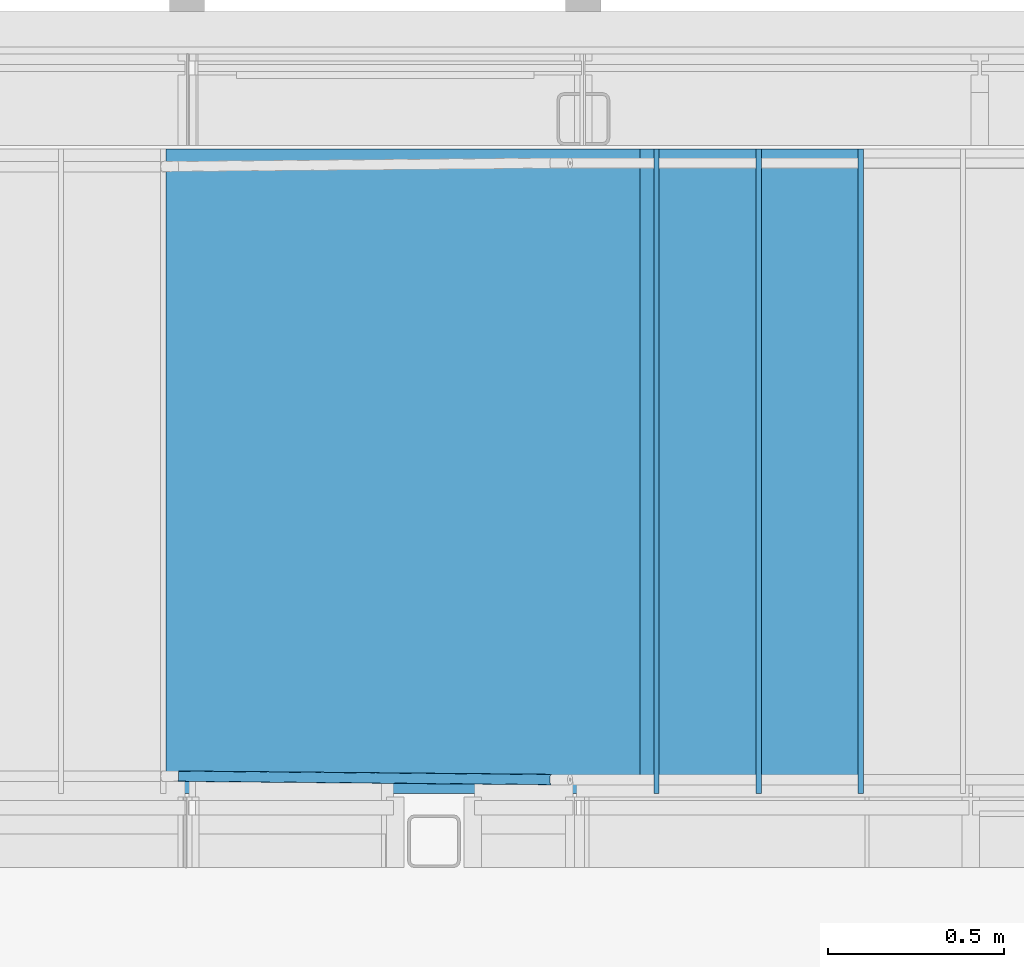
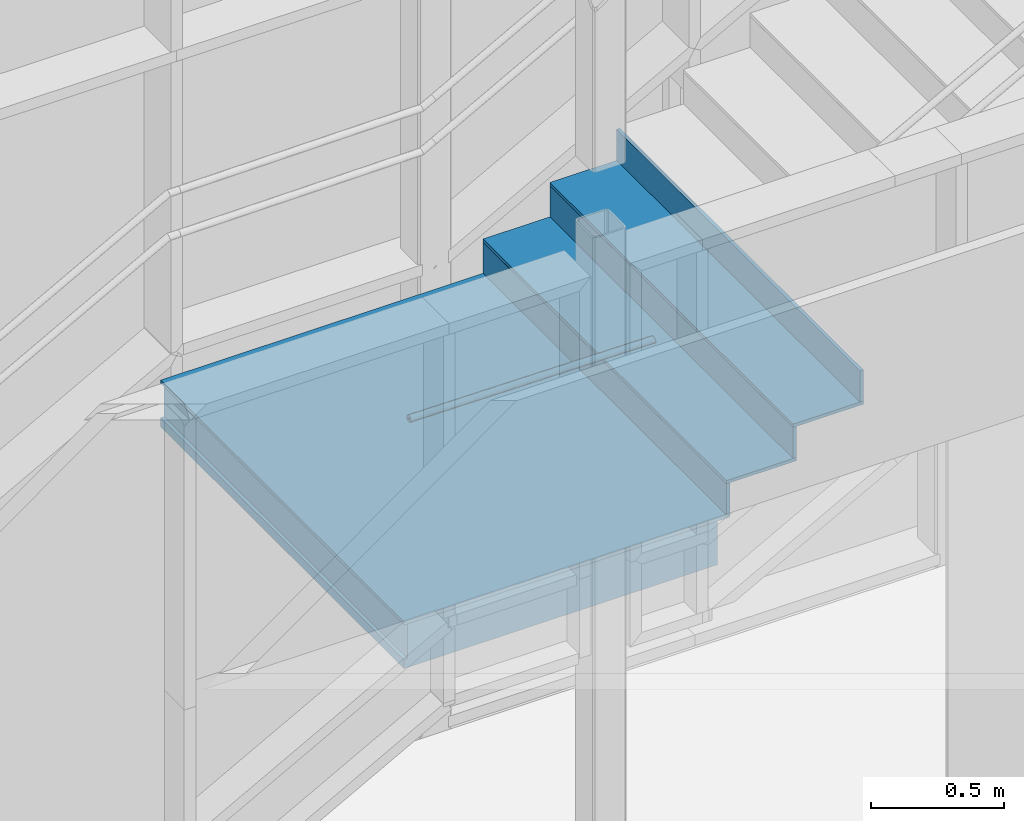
# One storey, part 192 of 301: 8 building element parts, 2 elements without a shape of their own.
"""IFC2X3 building model written with IfcOpenShell, lengths in millimetres."""

import ifcopenshell
import ifcopenshell.guid

model = None  # the IFC model being written
_history = None  # IfcOwnerHistory: only IFC2X3 demands one
_inside = {}  # id of a spatial element -> (the spatial element, [elements in it])
_under = {}  # id of a project, library or spatial element -> (it, [spatial elements below it])
_declared = {}  # id of a project -> (the project, [libraries it declares])
_typed = {}  # id of a type object -> (the type object, [elements of that type])
_made_of = {}  # id of a material, layer set ... -> (it, [elements and type objects made of it])


def new_model(schema):
    """Start an empty IFC model of exactly this schema.

    Asked for "IFC4X3", IfcOpenShell would pick the latest addendum, in which some entities
    have other attributes; the version numbers below select the first issue.
    IFC2X3 requires an IfcOwnerHistory on every rooted entity: one is made here for all.
    """
    global model, _history
    if schema == "IFC4X3":
        model = ifcopenshell.file(schema_version=(4, 3, 0, 0))
    else:
        model = ifcopenshell.file(schema=schema)
    _inside.clear()
    _under.clear()
    _declared.clear()
    _typed.clear()
    _made_of.clear()
    _history = None
    if model.schema == "IFC2X3":
        org = make("IfcOrganization", Name="unknown")
        user = make(
            "IfcPersonAndOrganization",
            ThePerson=make("IfcPerson", FamilyName="unknown"),
            TheOrganization=org,
        )
        app = make(
            "IfcApplication",
            ApplicationDeveloper=org,
            Version="unknown",
            ApplicationFullName="unknown",
            ApplicationIdentifier="unknown",
        )
        _history = make(
            "IfcOwnerHistory",
            OwningUser=user,
            OwningApplication=app,
            ChangeAction="ADDED",
            CreationDate=0,
        )
    return model


def make(cls, **values):
    """One entity of the class cls with the attributes given. An attribute that is None is left unset."""
    return model.create_entity(
        cls, **{name: value for name, value in values.items() if value is not None}
    )


def entity(cls, *values):
    """Any entity or typed value of the class cls, its attributes in the order of the schema. None: left unset."""
    e = model.create_entity(cls)
    for i, value in enumerate(values):
        if value is not None:
            e[i] = value
    return e


def rooted(cls, **values):
    """An entity with a GlobalId (a new one), such as an element, a storey or a relation."""
    return make(cls, GlobalId=ifcopenshell.guid.new(), OwnerHistory=_history, **values)


def si_unit(unit_type, name, prefix=None):
    """IfcSIUnit, for example si_unit("LENGTHUNIT", "METRE", prefix="MILLI")."""
    return make("IfcSIUnit", UnitType=unit_type, Prefix=prefix, Name=name)


def converted_unit(unit_type, name, factor, base, dimensions=None, offset=None):
    """IfcConversionBasedUnit, such as the inch: factor (a typed value) times the base unit."""
    return make(
        "IfcConversionBasedUnit"
        if offset is None
        else "IfcConversionBasedUnitWithOffset",
        ConversionOffset=offset,
        Dimensions=None
        if dimensions is None
        else entity("IfcDimensionalExponents", *dimensions),
        UnitType=unit_type,
        Name=name,
        ConversionFactor=make(
            "IfcMeasureWithUnit", ValueComponent=factor, UnitComponent=base
        ),
    )


def derived_unit(unit_type, elements):
    """IfcDerivedUnit: a product of units, each with its exponent."""
    return make(
        "IfcDerivedUnit",
        Elements=[
            make("IfcDerivedUnitElement", Unit=unit, Exponent=power)
            for unit, power in elements
        ],
        UnitType=unit_type,
    )


def money_unit(currency):
    """IfcMonetaryUnit."""
    return make("IfcMonetaryUnit", Currency=currency)


def assignment(units):
    """IfcUnitAssignment: the units of a project."""
    return None if units is None else make("IfcUnitAssignment", Units=units)


def point(xyz):
    """IfcCartesianPoint."""
    return None if xyz is None else make("IfcCartesianPoint", Coordinates=xyz)


def direction(xyz):
    """IfcDirection."""
    return None if xyz is None else make("IfcDirection", DirectionRatios=xyz)


def frame(location, z_axis=None, x_axis=None):
    """IfcAxis2Placement3D, a coordinate frame: its origin and axes. An axis left out is left unset."""
    return make(
        "IfcAxis2Placement3D",
        Location=point(location),
        Axis=direction(z_axis),
        RefDirection=direction(x_axis),
    )


def origin_with_axes():
    """The frame at (0, 0, 0) with the z axis (0, 0, 1) and the x axis (1, 0, 0) written out."""
    return frame((0.0, 0.0, 0.0), z_axis=(0.0, 0.0, 1.0), x_axis=(1.0, 0.0, 0.0))


def place(relative_to, where):
    """IfcLocalPlacement: puts the frame where relative to a parent placement (None: the world)."""
    return make(
        "IfcLocalPlacement", PlacementRelTo=relative_to, RelativePlacement=where
    )


def context(
    kind, dimensions, precision=None, world=None, true_north=None, identifier=None
):
    """IfcGeometricRepresentationContext, for example the 3D "Model" context."""
    return make(
        "IfcGeometricRepresentationContext",
        ContextIdentifier=identifier,
        ContextType=kind,
        CoordinateSpaceDimension=dimensions,
        Precision=precision,
        WorldCoordinateSystem=world,
        TrueNorth=true_north,
    )


def subcontext(parent, identifier, kind, view, scale=None):
    """IfcGeometricRepresentationSubContext, for example "Body" below "Model"."""
    return make(
        "IfcGeometricRepresentationSubContext",
        ContextIdentifier=identifier,
        ContextType=kind,
        ParentContext=parent,
        TargetScale=scale,
        TargetView=view,
    )


def project(units=None, contexts=None):
    """IfcProject with its units and contexts."""
    return rooted(
        "IfcProject",
        Name="project",
        RepresentationContexts=contexts,
        UnitsInContext=assignment(units),
    )


def spatial(cls, under=None, at=None, **own):
    """A site, building, storey or space (cls), placed at a placement, below another one or the project."""
    s = rooted(cls, ObjectPlacement=at, **own)
    if under is not None:
        _under.setdefault(under.id(), (under, []))[1].append(s)
    return s


def faces_of(points, faces, orient=None, outer=None):
    """IfcFace entities. A face is a list of loops; a loop is a list of indices into points, from 0.

    orient and outer hold one flag for each loop. By default every Orientation is true, the
    first loop of a face is its IfcFaceOuterBound and the others are IfcFaceBound.
    """
    made = []
    for i, loops in enumerate(faces):
        bounds = []
        for j, loop in enumerate(loops):
            is_outer = j == 0 if outer is None else outer[i][j]
            bounds.append(
                make(
                    "IfcFaceOuterBound" if is_outer else "IfcFaceBound",
                    Bound=make("IfcPolyLoop", Polygon=[points[k] for k in loop]),
                    Orientation=True if orient is None else orient[i][j],
                )
            )
        made.append(make("IfcFace", Bounds=bounds))
    return made


def faceted_brep(points, faces, orient=None, outer=None, voids=None):
    """IfcFacetedBrep: a solid bounded by flat faces; with voids (closed shells), ...WithVoids."""
    shared = [point(p) for p in points]
    hull = make("IfcClosedShell", CfsFaces=faces_of(shared, faces, orient, outer))
    if voids is None:
        return make("IfcFacetedBrep", Outer=hull)
    return make(
        "IfcFacetedBrepWithVoids",
        Outer=hull,
        Voids=[
            make(cls, CfsFaces=faces_of(shared, fs, o, b)) for cls, fs, o, b in voids
        ],
    )


def shape(context_of_items, identifier, shape_type, items):
    """IfcShapeRepresentation: the items that make up one representation, for example the "Body"."""
    return make(
        "IfcShapeRepresentation",
        ContextOfItems=context_of_items,
        RepresentationIdentifier=identifier,
        RepresentationType=shape_type,
        Items=items,
    )


def material(Name=None, Category=None):
    """IfcMaterial."""
    return make("IfcMaterial", Name=Name, Category=Category)


def made_of(thing, what):
    """Note that an element or type object is made of a material, layer set ...; save() writes the relation."""
    if what is not None:
        _made_of.setdefault(what.id(), (what, []))[1].append(thing)
    return thing


def type_object(cls, material=None, **own):
    """A type object (cls), such as IfcWallType, which elements share."""
    return made_of(rooted(cls, **own), material)


def element(
    cls,
    number,
    at=None,
    inside=None,
    cuts=None,
    type_object=None,
    material=None,
    context=None,
    identifier="Body",
    shape_type=None,
    held_by="IfcProductDefinitionShape",
    body=None,
    shapes=None,
    **own,
):
    """One element of the class cls, such as IfcWall. Its Tag is "e" and its number.

    at: its placement. inside: the storey or other place that contains it. cuts: it is an
    opening in that element (IfcRelVoidsElement). A single representation is given by context,
    identifier, shape_type and body (its items); several are given by shapes. held_by: the class
    of the entity that holds the representations. save() writes the other relations.
    """
    e = rooted(cls, Tag="e%d" % number, ObjectPlacement=at, **own)
    if body is not None:
        shapes = [shape(context, identifier, shape_type, body)]
    if shapes is not None:
        e.Representation = make(held_by, Representations=shapes)
    if inside is not None:
        _inside.setdefault(inside.id(), (inside, []))[1].append(e)
    if cuts is not None:
        rooted(
            "IfcRelVoidsElement", RelatingBuildingElement=cuts, RelatedOpeningElement=e
        )
    if type_object is not None:
        _typed.setdefault(type_object.id(), (type_object, []))[1].append(e)
    return made_of(e, material)


def aggregate(whole, parts):
    """IfcRelAggregates: a whole, such as a stair, and the parts it consists of."""
    return rooted("IfcRelAggregates", RelatingObject=whole, RelatedObjects=parts)


def save(model, path):
    """Write the relations noted so far, then the file.

    IfcRelAggregates (storeys below a building ...), IfcRelContainedInSpatialStructure (elements
    in a storey), IfcRelDefinesByType, IfcRelAssociatesMaterial and IfcRelDeclares: one each for
    every whole, place, type object, material and project.
    """
    for whole, parts in _under.values():
        aggregate(whole, parts)
    for where, things in _inside.values():
        rooted(
            "IfcRelContainedInSpatialStructure",
            RelatedElements=things,
            RelatingStructure=where,
        )
    for kind, things in _typed.values():
        rooted("IfcRelDefinesByType", RelatedObjects=things, RelatingType=kind)
    for what, things in _made_of.values():
        rooted("IfcRelAssociatesMaterial", RelatedObjects=things, RelatingMaterial=what)
    for by, libraries in _declared.values():
        rooted("IfcRelDeclares", RelatingContext=by, RelatedDefinitions=libraries)
    model.write(path)


model = new_model("IFC2X3")

# Units and contexts
model_context = context("Model", 3, precision=0.01, world=origin_with_axes(), true_north=direction((0.0, 1.0)))
body_context = subcontext(model_context, "Body", "Model", "MODEL_VIEW")
ifc_project = project(units=[si_unit("LENGTHUNIT", "METRE", prefix="MILLI"), si_unit("AREAUNIT", "SQUARE_METRE"), si_unit("VOLUMEUNIT", "CUBIC_METRE"), converted_unit("PLANEANGLEUNIT", "DEGREE", entity("IfcPlaneAngleMeasure", 0.0174532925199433), si_unit("PLANEANGLEUNIT", "RADIAN"), dimensions=[0, 0, 0, 0, 0, 0, 0]), money_unit("EUR"), converted_unit("TIMEUNIT", "Year", entity("IfcTimeMeasure", 31557600.0), si_unit("TIMEUNIT", "SECOND"), dimensions=[0, 0, 1, 0, 0, 0, 0]), si_unit("MASSUNIT", "GRAM", prefix="KILO"), si_unit("THERMODYNAMICTEMPERATUREUNIT", "DEGREE_CELSIUS"), si_unit("LUMINOUSINTENSITYUNIT", "LUMEN"), si_unit("ENERGYUNIT", "JOULE", prefix="MEGA"), derived_unit("THERMALCONDUCTANCEUNIT", [(si_unit("POWERUNIT", "WATT"), 1), (si_unit("LENGTHUNIT", "METRE"), -1), (si_unit("THERMODYNAMICTEMPERATUREUNIT", "KELVIN"), -1)]), derived_unit("SPECIFICHEATCAPACITYUNIT", [(si_unit("ENERGYUNIT", "JOULE"), 1), (si_unit("MASSUNIT", "GRAM", prefix="KILO"), -1), (si_unit("THERMODYNAMICTEMPERATUREUNIT", "KELVIN"), -1)]), derived_unit("MASSDENSITYUNIT", [(si_unit("MASSUNIT", "GRAM", prefix="KILO"), 1), (si_unit("VOLUMEUNIT", "CUBIC_METRE"), -1)])], contexts=[model_context])

# Site, building, storey
site_placement = place(None, frame((0.0, 0.0, 8650.0), z_axis=(0.0, 0.0, 1.0), x_axis=(1.0, 0.0, 0.0)))
site = spatial("IfcSite", under=ifc_project, at=site_placement, Name="43301:001:0844", CompositionType="ELEMENT")
building_placement = place(site_placement, origin_with_axes())
building = spatial("IfcBuilding", under=site, at=building_placement, Name="Kuressaare Ametikooli tuulikute mehaanikute õppekorpus", CompositionType="ELEMENT")
storey_placement = place(building_placement, origin_with_axes())
storey = spatial("IfcBuildingStorey", under=building, at=storey_placement, Name="1.korrus", CompositionType="ELEMENT", Elevation=0.0)

# Railing, building element part
railing_type = type_object("IfcRailingType", Name="Railing Type", PredefinedType="NOTDEFINED")
railing_placement = place(storey_placement, frame((107882.9493746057, 26509.57374875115, 157.6923606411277), z_axis=(0.0, 0.0, 1.0), x_axis=(1.0, 0.0, 0.0)))
railing = element("IfcRailing", 1, at=railing_placement, inside=storey, type_object=railing_type, Name="Piire", PredefinedType="NOTDEFINED")
ifc_material_1 = material(Name="Metall - Teras - Roostevaba")
building_element_part_1_placement = place(railing_placement, origin_with_axes())
building_element_part_1 = element("IfcBuildingElementPart", 2, at=building_element_part_1_placement, material=ifc_material_1, Name="Metall - Teras - Roostevaba", context=body_context, shape_type="Brep", body=[
    faceted_brep([(2609.304336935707, 48.05500736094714, 2767.665878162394), (2609.335024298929, 48.05472964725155, 2767.665878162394), (3670.364375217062, 38.47917582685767, 2767.665892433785), (2609.321452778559, 46.55507664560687, 2769.807692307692), (2609.293381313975, 46.55533068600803, 2769.807692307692), (2609.318821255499, 49.9038044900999, 2765.817025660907), (2609.351755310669, 49.90350644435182, 2765.817025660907), (3670.843445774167, 40.32575845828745, 2765.817041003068), (3669.812486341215, 36.98208926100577, 2769.807705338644), (2609.286287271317, 45.45034138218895, 2772.177390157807), (2609.311453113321, 45.45011363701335, 2772.177390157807), (2609.283270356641, 44.77361399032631, 2774.702969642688), (2609.284422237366, 44.54571052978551, 2777.307692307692), (2609.289707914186, 44.77355573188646, 2779.912414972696), (2609.298966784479, 45.45022663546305, 2782.437994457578), (2609.311917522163, 46.55516293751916, 2784.807692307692), (2609.328166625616, 48.05479170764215, 2786.94950645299), (2609.347220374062, 49.90354748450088, 2788.798358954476), (2609.368499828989, 52.04525675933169, 2790.298073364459), (2609.391358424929, 54.41484477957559, 2791.403081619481), (2609.415101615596, 56.9403128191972, 2792.079809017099), (2609.43900797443, 59.54492578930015, 2792.307692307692), (2609.462351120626, 62.149543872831, 2792.07980860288), (2609.484421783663, 64.67502703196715, 2791.403081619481), (2609.504549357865, 67.04463976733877, 2790.298073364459), (2609.522122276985, 69.18638258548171, 2788.798358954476), (2609.536606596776, 71.03517971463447, 2786.94950645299), (2609.547562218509, 72.53485638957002, 2784.807692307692), (2609.554656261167, 73.63984569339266, 2782.437994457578), (2609.557673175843, 74.3165730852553, 2779.912414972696), (2609.556521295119, 74.5444765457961, 2777.307692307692), (2609.551235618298, 74.31663134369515, 2774.702969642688), (2609.541976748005, 73.63996044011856, 2772.177390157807), (2609.529026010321, 72.53502413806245, 2769.807692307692), (2609.512776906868, 71.03539536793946, 2767.665878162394), (2609.493723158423, 69.18663959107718, 2765.817025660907), (2609.472443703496, 67.04493031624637, 2764.317311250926), (2609.449585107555, 64.67534229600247, 2763.212302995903), (2609.425841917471, 62.14987426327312, 2762.535576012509), (2609.401935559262, 59.54526141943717, 2762.307692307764), (2609.378592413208, 56.94064335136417, 2762.535576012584), (2609.356521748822, 54.41516004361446, 2763.212302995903), (2609.336394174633, 52.04554730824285, 2764.317311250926), (2609.376883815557, 54.62124760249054, 2778.175933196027), (2609.375121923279, 54.54529920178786, 2777.307692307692), (2609.374737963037, 54.62126702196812, 2776.439451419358), (2609.375743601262, 54.84684281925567, 2775.597591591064), (2609.378108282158, 55.21517258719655, 2774.807692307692), (2609.381760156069, 55.71506481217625, 2774.093754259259), (2609.386588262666, 56.33133052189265, 2773.477470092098), (2609.392445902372, 57.04524479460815, 2772.97756528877), (2609.399155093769, 57.83511570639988, 2772.609229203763), (2609.40651198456, 58.67694376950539, 2772.383653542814), (2609.414293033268, 59.54514979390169, 2772.307692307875), (2609.422261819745, 60.41335412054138, 2772.383653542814), (2609.430176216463, 61.25517680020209, 2772.609229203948), (2609.437795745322, 62.04503913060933, 2772.97756528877), (2609.444888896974, 62.75894222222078, 2773.477470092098), (2609.451240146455, 63.37519414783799, 2774.093754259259), (2609.456656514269, 63.87507040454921, 2774.807692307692), (2609.460973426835, 64.2433825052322, 2775.597591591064), (2609.464059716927, 64.46893947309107, 2776.439451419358), (2609.465821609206, 64.54488787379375, 2777.307692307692), (2609.466205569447, 64.46892005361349, 2778.175933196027), (2609.465199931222, 64.24334425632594, 2779.01779302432), (2609.462835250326, 63.87501448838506, 2779.807692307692), (2609.459183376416, 63.37512226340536, 2780.521630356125), (2609.454355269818, 62.75885655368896, 2781.137914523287), (2609.448497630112, 62.04494228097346, 2781.637819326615), (2609.441788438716, 61.25507136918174, 2782.006155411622), (2609.434431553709, 60.41324394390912, 2782.231731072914), (2609.426650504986, 59.54503791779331, 2782.307692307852), (2609.418681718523, 58.67683359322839, 2782.231731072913), (2609.410767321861, 57.83501091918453, 2782.006155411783), (2609.403147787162, 57.04514794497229, 2781.637819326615), (2609.396054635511, 56.33124485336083, 2781.137914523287), (2609.389703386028, 55.71499292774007, 2780.521630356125), (2609.384287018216, 55.2151166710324, 2779.807692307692), (2609.37997010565, 54.84680457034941, 2779.01779302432), (2609.371137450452, 52.04523288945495, 2764.317311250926), (3671.235141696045, 42.46572967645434, 2764.31732746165), (3666.59527244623, 35.89255693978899, 2782.438000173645), (3667.234268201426, 35.21273773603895, 2779.912422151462), (3667.895552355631, 34.98166366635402, 2777.307700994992), (3668.559032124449, 35.20635579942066, 2774.702979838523), (3669.204548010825, 35.87998697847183, 2772.17740181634), (3671.527561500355, 44.83406753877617, 2763.212319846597), (3671.711820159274, 47.35881129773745, 2762.535593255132), (3671.782319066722, 49.96324789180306, 2762.307709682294), (3671.736916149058, 52.56824283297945, 2762.535593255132), (3671.576990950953, 55.09464466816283, 2763.212319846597), (3671.307402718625, 57.46568995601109, 2764.31732746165), (3670.936342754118, 59.60933568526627, 2765.817041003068), (3670.475085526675, 61.46044826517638, 2767.665892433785), (3669.937646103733, 62.96278257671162, 2769.807705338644), (3669.340354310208, 64.07069095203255, 2772.17740181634), (3668.701358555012, 64.75051015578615, 2774.702979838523), (3668.040074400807, 64.98158422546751, 2777.307700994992), (3667.376594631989, 64.75689209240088, 2779.912422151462), (3666.731078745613, 64.08326091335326, 2782.438000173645), (3666.123140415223, 62.98115863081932, 2784.807696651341), (3665.571251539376, 61.48407206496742, 2786.9495095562), (3665.09218098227, 59.63748943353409, 2788.798360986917), (3664.700485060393, 57.49751821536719, 2790.298074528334), (3664.408065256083, 55.12918035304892, 2791.403082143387), (3664.223806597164, 52.60443659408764, 2792.079808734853), (3664.153307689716, 50.00000000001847, 2792.30769230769), (3664.19871060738, 47.39500505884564, 2792.079808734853), (3664.358635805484, 44.86860322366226, 2791.403082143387), (3664.628224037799, 42.49755793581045, 2790.298074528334), (3664.99928400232, 40.35391220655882, 2788.798360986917), (3665.460541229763, 38.50279962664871, 2786.9495095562), (3665.997980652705, 37.00046531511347, 2784.807696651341), (3666.764754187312, 48.27728370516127, 2782.006161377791), (3666.711445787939, 49.11941765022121, 2782.231736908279), (3666.696311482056, 49.98774929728, 2782.307698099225), (3666.719811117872, 50.85589482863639, 2782.231736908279), (3666.781230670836, 51.69747608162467, 2782.006161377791), (3666.878703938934, 52.48692203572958, 2781.637825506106), (3667.009269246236, 53.20024577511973, 2781.1379209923), (3667.168959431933, 53.81577331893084, 2780.521637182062), (3667.352922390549, 54.3148021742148, 2779.807699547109), (3667.555568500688, 54.68216960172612, 2779.01780072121), (3667.770740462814, 54.90671332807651, 2778.175941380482), (3667.991900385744, 54.98161070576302, 2777.307700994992), (3668.21232843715, 54.90458601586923, 2776.439460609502), (3668.42532702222, 54.6779796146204, 2775.597601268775), (3668.624424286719, 54.30867682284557, 2774.807702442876), (3668.803570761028, 53.80789871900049, 2774.093764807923), (3668.95732317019, 53.1908611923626, 2773.477480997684), (3669.081009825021, 52.47631261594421, 2772.977576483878), (3669.170872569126, 51.68596418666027, 2772.609240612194), (3669.224180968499, 50.84383024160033, 2772.383665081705), (3669.239315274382, 49.97549859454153, 2772.30770389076), (3669.215815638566, 49.10735306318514, 2772.383665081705), (3669.154396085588, 48.26577181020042, 2772.609240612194), (3669.05692281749, 47.47632585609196, 2772.977576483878), (3668.926357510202, 46.76300211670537, 2773.477480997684), (3668.766667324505, 46.14747457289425, 2774.093764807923), (3668.582704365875, 45.64844571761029, 2774.807702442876), (3668.38005825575, 45.28107829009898, 2775.597601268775), (3668.164886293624, 45.05653456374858, 2776.439460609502), (3667.943726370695, 44.98163718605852, 2777.307700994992), (3667.723298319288, 45.05866187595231, 2778.175941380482), (3667.510299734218, 45.28526827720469, 2779.01780072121), (3667.311202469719, 45.65457106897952, 2779.807699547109), (3667.132055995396, 46.1553491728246, 2780.521637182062), (3666.978303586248, 46.77238669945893, 2781.1379209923), (3666.854616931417, 47.48693527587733, 2781.637825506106), (2609.305329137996, 44.7734143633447, 2774.702969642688), (2609.303266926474, 44.5455399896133, 2777.307692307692), (2609.305329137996, 44.7734143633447, 2779.912414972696), (2609.311453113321, 45.45011363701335, 2782.437994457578), (2609.566562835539, 73.63973794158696, 2782.437994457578), (2609.572686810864, 74.3164372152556, 2779.912414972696), (2609.574749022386, 74.544311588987, 2777.307692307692), (2609.572686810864, 74.3164372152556, 2774.702969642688), (2609.566562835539, 73.63973794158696, 2772.177390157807), (2609.556563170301, 72.53477493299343, 2769.807692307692), (2609.542991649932, 71.03512193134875, 2767.665878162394), (2609.526260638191, 69.18634513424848, 2765.817025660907), (2609.506878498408, 67.04461868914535, 2764.317311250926), (2609.485434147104, 64.67501787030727, 2763.212302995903), (2609.462579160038, 62.14954179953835, 2762.535576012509), (2609.392581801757, 54.41483370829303, 2763.212302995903), (2609.394448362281, 54.62108864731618, 2778.175933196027), (2609.39376095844, 54.54513052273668, 2777.307692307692), (2609.394448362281, 54.62108864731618, 2776.439451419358), (2609.396489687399, 54.84665507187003, 2775.597591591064), (2609.39982290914, 55.21497607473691, 2774.807692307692), (2609.404346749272, 55.71486040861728, 2774.093754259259), (2609.409923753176, 56.33111934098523, 2773.477470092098), (2609.416384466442, 57.04502815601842, 2772.97756528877), (2609.423532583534, 57.83489509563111, 2772.609229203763), (2609.461631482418, 62.04482342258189, 2772.97756528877), (2609.468092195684, 62.75873223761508, 2773.477470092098), (2609.473669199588, 63.37499116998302, 2774.093754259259), (2609.47819303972, 63.87487550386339, 2774.807692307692), (2609.481526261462, 64.24319650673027, 2775.597591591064), (2609.48356758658, 64.46876293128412, 2776.439451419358), (2609.48425499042, 64.54472105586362, 2777.307692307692), (2609.48356758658, 64.46876293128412, 2778.175933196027), (2609.481526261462, 64.24319650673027, 2779.01779302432), (2609.47819303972, 63.87487550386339, 2779.807692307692), (2609.473669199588, 63.37499116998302, 2780.521630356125), (2609.468092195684, 62.75873223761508, 2781.137914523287), (2609.461631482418, 62.04482342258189, 2781.637819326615), (2609.454483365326, 61.25495648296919, 2782.006155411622), (2609.416384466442, 57.04502815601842, 2781.637819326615), (2609.409923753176, 56.33111934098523, 2781.137914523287), (2609.404346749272, 55.71486040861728, 2780.521630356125), (2609.39982290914, 55.21497607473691, 2779.807692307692), (2609.396489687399, 54.84665507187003, 2779.01779302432)], [[[0, 1, 2, 3, 4]], [[1, 0, 5, 6, 7]], [[1, 7, 2]], [[3, 2, 8]], [[9, 4, 3, 8, 10]], [[5, 0, 4, 9, 11, 12, 13, 14, 15, 16, 17, 18, 19, 20, 21, 22, 23, 24, 25, 26, 27, 28, 29, 30, 31, 32, 33, 34, 35, 36, 37, 38, 39, 40, 41, 42], [43, 44, 45, 46, 47, 48, 49, 50, 51, 52, 53, 54, 55, 56, 57, 58, 59, 60, 61, 62, 63, 64, 65, 66, 67, 68, 69, 70, 71, 72, 73, 74, 75, 76, 77, 78]], [[5, 42, 79, 80, 6]], [[7, 6, 80]], [[81, 82, 83, 84, 85, 8, 2, 7, 80, 86, 87, 88, 89, 90, 91, 92, 93, 94, 95, 96, 97, 98, 99, 100, 101, 102, 103, 104, 105, 106, 107, 108, 109, 110, 111, 112], [113, 114, 115, 116, 117, 118, 119, 120, 121, 122, 123, 124, 125, 126, 127, 128, 129, 130, 131, 132, 133, 134, 135, 136, 137, 138, 139, 140, 141, 142, 143, 144, 145, 146, 147, 148]], [[85, 10, 8]], [[11, 9, 10, 85, 149]], [[150, 12, 11, 149, 84]], [[12, 150, 83, 151, 13]], [[13, 151, 82, 152, 14]], [[14, 152, 81, 15]], [[16, 15, 112]], [[17, 16, 111]], [[18, 17, 110]], [[19, 18, 109]], [[20, 19, 108]], [[21, 20, 107, 106]], [[22, 21, 106, 105]], [[22, 105, 23]], [[23, 104, 24]], [[103, 25, 24]], [[102, 26, 25]], [[101, 27, 26]], [[153, 28, 27, 100]], [[29, 28, 153, 99, 154]], [[30, 29, 154, 98, 155]], [[156, 31, 30, 155, 97]], [[157, 32, 31, 156, 96]], [[33, 32, 157, 95, 158]], [[159, 34, 33, 158, 94]], [[160, 35, 34, 159, 93]], [[161, 36, 35, 160, 92]], [[37, 36, 161, 91, 162]], [[38, 37, 162, 90, 163]], [[39, 38, 163, 89, 88]], [[40, 39, 88, 87]], [[164, 41, 40, 87]], [[79, 42, 41, 164, 86]], [[44, 43, 165, 143, 166]], [[44, 166, 142, 167, 45]], [[168, 46, 45, 167, 141]], [[46, 168, 140, 169, 47]], [[48, 47, 169, 139, 170]], [[48, 170, 138, 171, 49]], [[50, 49, 171, 137, 172]], [[51, 50, 172, 136, 173]], [[52, 51, 173, 135, 134]], [[53, 52, 134, 133]], [[54, 53, 133, 132]], [[55, 54, 132, 131]], [[56, 55, 131, 174]], [[57, 56, 174, 130, 175]], [[58, 57, 175, 129, 176]], [[59, 58, 176, 128, 177]], [[60, 59, 177, 127, 178]], [[61, 60, 178, 126, 179]], [[62, 61, 179, 125, 180]], [[63, 62, 180, 124, 181]], [[64, 63, 181, 123, 182]], [[65, 64, 182, 122, 183]], [[66, 65, 183, 121, 184]], [[67, 66, 184, 120, 185]], [[68, 67, 185, 119, 186]], [[69, 68, 186, 118, 187]], [[69, 187, 117, 116, 70]], [[71, 70, 116, 115]], [[72, 71, 115, 114]], [[73, 72, 114, 113]], [[74, 73, 113, 188]], [[75, 74, 188, 148, 189]], [[76, 75, 189, 147, 190]], [[77, 76, 190, 146, 191]], [[192, 78, 77, 191, 145]], [[43, 78, 192, 144, 165]], [[80, 79, 86]], [[152, 82, 81]], [[82, 151, 83]], [[83, 150, 84]], [[84, 149, 85]], [[86, 164, 87]], [[89, 163, 90]], [[91, 90, 162]], [[92, 91, 161]], [[93, 92, 160]], [[94, 93, 159]], [[95, 94, 158]], [[157, 96, 95]], [[96, 156, 97]], [[97, 155, 98]], [[154, 99, 98]], [[100, 99, 153]], [[101, 100, 27]], [[26, 102, 101]], [[25, 103, 102]], [[104, 103, 24]], [[105, 104, 23]], [[20, 108, 107]], [[108, 19, 109]], [[109, 18, 110]], [[17, 111, 110]], [[111, 16, 112]], [[112, 15, 81]], [[187, 118, 117]], [[119, 118, 186]], [[120, 119, 185]], [[120, 184, 121]], [[121, 183, 122]], [[122, 182, 123]], [[123, 181, 124]], [[124, 180, 125]], [[179, 126, 125]], [[178, 127, 126]], [[127, 177, 128]], [[176, 129, 128]], [[175, 130, 129]], [[174, 131, 130]], [[173, 136, 135]], [[172, 137, 136]], [[171, 138, 137]], [[170, 139, 138]], [[139, 169, 140]], [[168, 141, 140]], [[167, 142, 141]], [[166, 143, 142]], [[143, 165, 144]], [[144, 192, 145]], [[191, 146, 145]], [[190, 147, 146]], [[189, 148, 147]], [[148, 188, 113]]]),
])
aggregate(railing, [building_element_part_1])

# Stair, building element parts
stair_placement = place(storey_placement, frame((106962.1026822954, 28349.57374875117, 5.294881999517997e-05), z_axis=(0.0, 0.0, 1.0), x_axis=(1.0, 0.0, 0.0)))
stair = element("IfcStair", 3, at=stair_placement, inside=storey, Name="Trepp1", ShapeType="NOTDEFINED")
ifc_material_2 = material(Name="Betoon - C25/30")
building_element_part_2_placement = place(stair_placement, origin_with_axes())
building_element_part_2 = element("IfcBuildingElementPart", 4, at=building_element_part_2_placement, material=ifc_material_2, Name="Betoon - C25/30", context=body_context, shape_type="Brep", body=[
    faceted_brep([(4841.193927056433, -1829.999973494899, 2035.0), (4841.193872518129, 2.422183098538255e-05, 2035.0), (3495.0, 0.0, 2035.0), (3495.0, -1830.0, 2035.0), (4841.193872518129, 2.422183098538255e-05, 1835.0), (4841.193927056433, -1829.999973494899, 1835.0), (3480.0, -2.34908892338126e-06, 1835.0), (3480.0, -2.34908892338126e-06, 1877.307692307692), (3495.0, 0.0, 1877.307692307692), (3495.0, -1830.0, 1877.307692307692), (3480.0, -1830.0, 1877.307692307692), (3480.0, -1830.0, 1835.0)], [[[0, 1, 2, 3]], [[4, 1, 0, 5]], [[1, 4, 6, 7, 8, 2]], [[9, 3, 2, 8]], [[5, 0, 3, 9, 10, 11]], [[4, 5, 11, 6]], [[11, 10, 7, 6]], [[9, 8, 7, 10]]]),
])
ifc_material_3 = material(Name="GENEERILINE - SISEMINE VIIMISTLUS")
building_element_part_3_placement = place(stair_placement, origin_with_axes())
building_element_part_3 = element("IfcBuildingElementPart", 5, at=building_element_part_3_placement, material=ifc_material_3, Name="GENEERILINE - SISEMINE VIIMISTLUS", context=body_context, shape_type="Brep", body=[
    faceted_brep([(4880.00004547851, -1829.999975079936, 2192.692307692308), (4895.000045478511, -1829.999974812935, 2192.692307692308), (4895.000012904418, 2.518706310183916e-05, 2192.692307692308), (4880.000012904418, 2.492006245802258e-05, 2192.692307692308), (4880.00004547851, -1829.999975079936, 2050.0), (4895.000045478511, -1829.999974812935, 2050.0), (4895.000012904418, 2.518706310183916e-05, 2050.0), (4880.000012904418, 2.492006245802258e-05, 2050.0)], [[[0, 1, 2, 3]], [[0, 4, 5, 1]], [[1, 5, 6, 2]], [[3, 2, 6, 7]], [[4, 0, 3, 7]], [[5, 4, 7, 6]]]),
])
building_element_part_4_placement = place(stair_placement, origin_with_axes())
building_element_part_4 = element("IfcBuildingElementPart", 6, at=building_element_part_4_placement, material=ifc_material_3, Name="GENEERILINE - SISEMINE VIIMISTLUS", context=body_context, shape_type="Brep", body=[
    faceted_brep([(5170.000022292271, -1829.999977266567, 2350.384615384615), (5185.000022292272, -1829.999977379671, 2350.384615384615), (5185.000036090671, 2.262033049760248e-05, 2350.384615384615), (5170.00003609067, 2.273343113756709e-05, 2350.384615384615), (5170.000022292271, -1829.999977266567, 2207.692307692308), (5185.000022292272, -1829.999977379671, 2207.692307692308), (5185.000036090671, 2.262033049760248e-05, 2207.692307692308), (5170.00003609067, 2.273343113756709e-05, 2207.692307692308)], [[[0, 1, 2, 3]], [[0, 4, 5, 1]], [[1, 5, 6, 2]], [[3, 2, 6, 7]], [[4, 0, 3, 7]], [[5, 4, 7, 6]]]),
])
building_element_part_5_placement = place(stair_placement, origin_with_axes())
building_element_part_5 = element("IfcBuildingElementPart", 7, at=building_element_part_5_placement, material=ifc_material_3, Name="GENEERILINE - SISEMINE VIIMISTLUS", context=body_context, shape_type="Brep", body=[
    faceted_brep([(5460.000022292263, -1829.999979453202, 2508.076923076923), (5475.000022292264, -1829.999979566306, 2508.076923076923), (5475.000036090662, 2.043369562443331e-05, 2508.076923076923), (5460.000036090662, 2.054679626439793e-05, 2508.076923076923), (5460.000022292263, -1829.999979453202, 2365.384615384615), (5475.000022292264, -1829.999979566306, 2365.384615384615), (5475.000036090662, 2.043369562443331e-05, 2365.384615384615), (5460.000036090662, 2.054679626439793e-05, 2365.384615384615)], [[[0, 1, 2, 3]], [[0, 4, 5, 1]], [[1, 5, 6, 2]], [[3, 2, 6, 7]], [[4, 0, 3, 7]], [[5, 4, 7, 6]]]),
])
building_element_part_6_placement = place(stair_placement, origin_with_axes())
building_element_part_6 = element("IfcBuildingElementPart", 8, at=building_element_part_6_placement, material=ifc_material_3, Name="GENEERILINE - SISEMINE VIIMISTLUS", context=body_context, shape_type="Brep", body=[
    faceted_brep([(4879.999976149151, 2.492006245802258e-05, 2035.0), (3480.000000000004, -2.349089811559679e-06, 2035.0), (3480.000000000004, -2.349089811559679e-06, 2050.0), (4879.999976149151, 2.492006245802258e-05, 2050.0), (4894.999972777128, 2.492006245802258e-05, 2035.0), (4895.000027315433, -1829.999972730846, 2035.0), (4880.000030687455, -1829.999972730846, 2035.0), (3480.000000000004, -1829.999999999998, 2035.0), (3480.000000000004, -1829.999999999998, 2050.0), (4880.000030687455, -1829.999972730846, 2050.0), (4895.000027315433, -1829.999972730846, 2050.0), (4894.999972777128, 2.492006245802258e-05, 2050.0)], [[[0, 1, 2, 3]], [[0, 4, 5, 6, 7, 1]], [[1, 7, 8, 2]], [[3, 2, 8, 9, 10, 11]], [[4, 0, 3, 11]], [[5, 4, 11, 10]], [[6, 5, 10, 9]], [[7, 6, 9, 8]]]),
])
building_element_part_7_placement = place(stair_placement, origin_with_axes())
building_element_part_7 = element("IfcBuildingElementPart", 9, at=building_element_part_7_placement, material=ifc_material_3, Name="GENEERILINE - SISEMINE VIIMISTLUS", context=body_context, shape_type="Brep", body=[
    faceted_brep([(5185.000031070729, 2.492006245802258e-05, 2192.692307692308), (4879.999976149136, 2.492006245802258e-05, 2192.692307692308), (4879.999976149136, 2.492006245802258e-05, 2207.692307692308), (5185.000031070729, 2.492006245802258e-05, 2207.692307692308), (5185.000031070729, -1829.999977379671, 2192.692307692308), (4880.000030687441, -1829.999977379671, 2192.692307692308), (4880.000030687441, -1829.999977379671, 2207.692307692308), (5185.000031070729, -1829.999977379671, 2207.692307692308)], [[[0, 1, 2, 3]], [[0, 4, 5, 1]], [[1, 5, 6, 2]], [[3, 2, 6, 7]], [[4, 0, 3, 7]], [[5, 4, 7, 6]]]),
])
building_element_part_8_placement = place(stair_placement, origin_with_axes())
building_element_part_8 = element("IfcBuildingElementPart", 10, at=building_element_part_8_placement, material=ifc_material_3, Name="GENEERILINE - SISEMINE VIIMISTLUS", context=body_context, shape_type="Brep", body=[
    faceted_brep([(5170.00003461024, 2.273343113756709e-05, 2350.384615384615), (5170.00003461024, -1829.999977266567, 2350.384615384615), (5170.00003461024, -1829.999977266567, 2365.384615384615), (5170.00003461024, 2.273343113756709e-05, 2365.384615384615), (5475.000035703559, 2.043369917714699e-05, 2350.384615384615), (5475.000035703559, -1829.999979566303, 2350.384615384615), (5475.000035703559, -1829.999979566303, 2365.384615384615), (5475.000035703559, 2.043369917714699e-05, 2365.384615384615)], [[[0, 1, 2, 3]], [[0, 4, 5, 1]], [[1, 5, 6, 2]], [[3, 2, 6, 7]], [[4, 0, 3, 7]], [[5, 4, 7, 6]]]),
])
aggregate(stair, [building_element_part_2, building_element_part_3, building_element_part_4, building_element_part_5, building_element_part_6, building_element_part_7, building_element_part_8])

save(model, "model.ifc")
